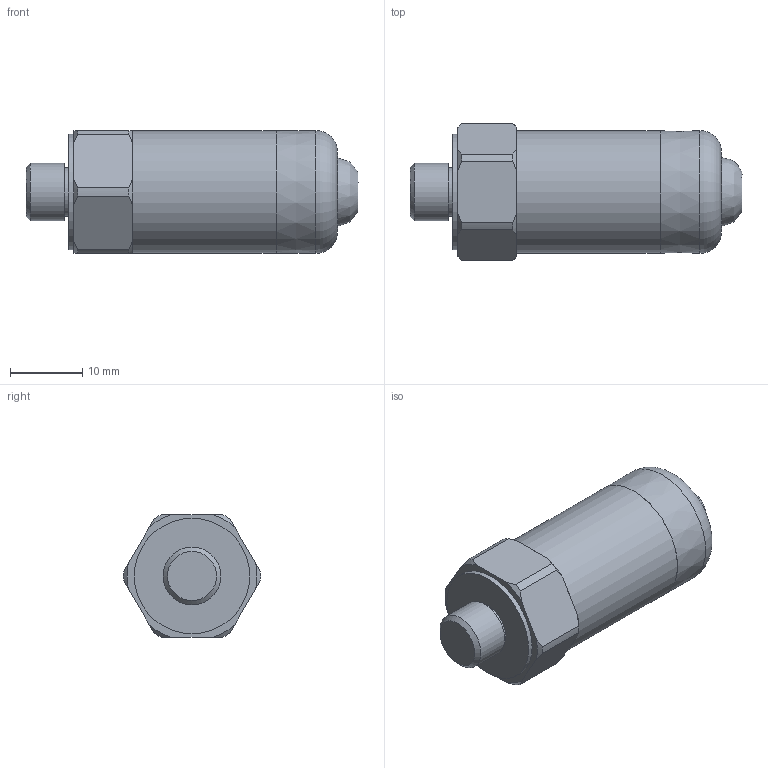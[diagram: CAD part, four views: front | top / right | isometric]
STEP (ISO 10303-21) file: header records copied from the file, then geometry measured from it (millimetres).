
FILE_DESCRIPTION(/* description */ (''),/* implementation_level */ '2;1');
FILE_NAME(/* name */ 'Z:\Engineering\Drawings\3D Library\Assemblies\Website\Premium Top\Compact\HS-170 Top Braided\HS-1700100208.stp',/* time_stamp */ '2023-03-16T16:51:27+00:00',/* author */ ('Ricardo.Peneda'),/* organization */ (''),/* preprocessor_version */ 'ST-DEVELOPER v18.1',/* originating_system */ 'Autodesk Inventor 2021',/* authorisation */ '');
FILE_SCHEMA (('AUTOMOTIVE_DESIGN { 1 0 10303 214 3 1 1 }'));
Length unit declared in the file: millimetre
Products named in the file (4): HS-1700100208; M02-121-A HS-170 Shear Base Stainless Steel; M01-083-C 1.4-28UNF - M8 Male Stud with stop and slots; M05-061-A (HS-170 Cap)
Assembly tree (3 placements, depth 2):
  HS-1700100208
    M02-121-A HS-170 Shear Base Stainless Steel
    M01-083-C 1.4-28UNF - M8 Male Stud with stop and slots
    M05-061-A (HS-170 Cap)
Bounding box: 46 x 19 x 17.01 mm (x, y, z)
Volume: 4781.3 mm3; surface area: 4720.2 mm2
Topology: 3 solids, 3 shells, 69 faces, 184 edges, 126 vertices
Faces by surface type: cone 28, plane 23, cylinder 16, torus 1, bspline 1
Full cylindrical faces by diameter (mm): 5 x1, 5.359 x1, 6.35 x1, 6.8 x1, 7 x2, 8 x1, 15.05 x1, 16 x1, 17 x1
Entity records: 2361 total; most frequent: CARTESIAN_POINT 459, DIRECTION 412, ORIENTED_EDGE 366, EDGE_CURVE 183, AXIS2_PLACEMENT_3D 178, VERTEX_POINT 126, CIRCLE 103, EDGE_LOOP 77
